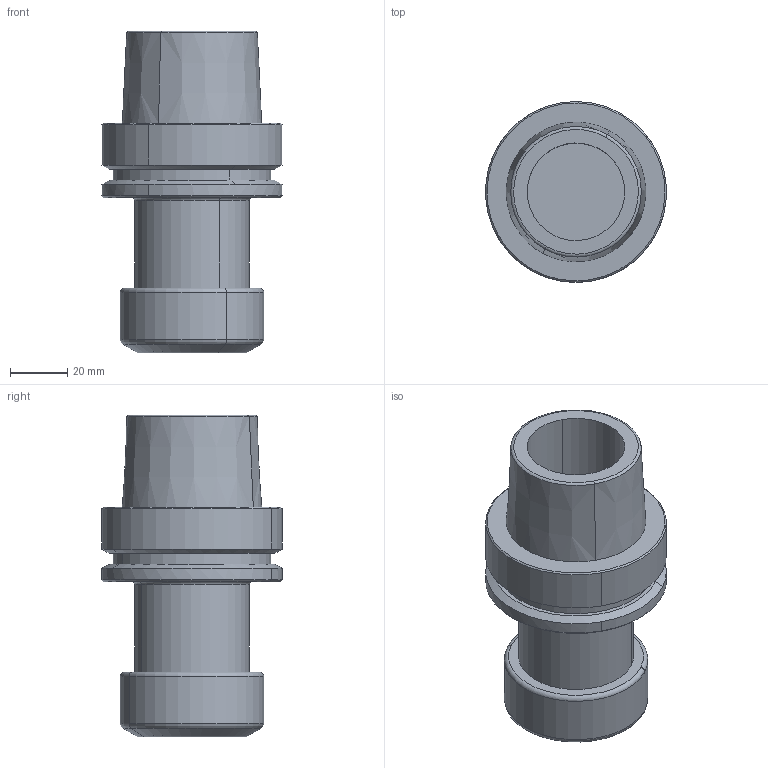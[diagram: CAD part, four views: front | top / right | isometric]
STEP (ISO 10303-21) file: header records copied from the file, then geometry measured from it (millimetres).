
FILE_DESCRIPTION(('CATIA V5 STEP','CAx-IF Rec.Pracs.--- Model Styling and Organization---1.2---2011-12-15'),'2;1');
FILE_NAME('\\iscar.com\data\vol_data_user\isr\design\admin8\users\weaam_s\4561301D.stp','2017-11-09T08:41:46+00:00',('none'),('none'),'CATIA Version 5 Release 21 SP 5 (IN-10)','CATIA V5 STEP AP214','none');
FILE_SCHEMA(('AUTOMOTIVE_DESIGN { 1 0 10303 214 1 1 1 1 }'));
Length unit declared in the file: millimetre
Products named in the file (1): HSK E63 ER32X80
Bounding box: 62.98 x 63 x 112 mm (x, y, z)
Volume: 144342.6 mm3; surface area: 34178.1 mm2
Topology: 1 solids, 1 shells, 65 faces, 134 edges, 80 vertices
Faces by surface type: cone 22, cylinder 20, plane 11, torus 10, extrusion 2
Entity records: 1675 total; most frequent: CARTESIAN_POINT 398, ORIENTED_EDGE 268, DIRECTION 208, EDGE_CURVE 134, AXIS2_PLACEMENT_3D 124, CIRCLE 84, VERTEX_POINT 80, EDGE_LOOP 74
